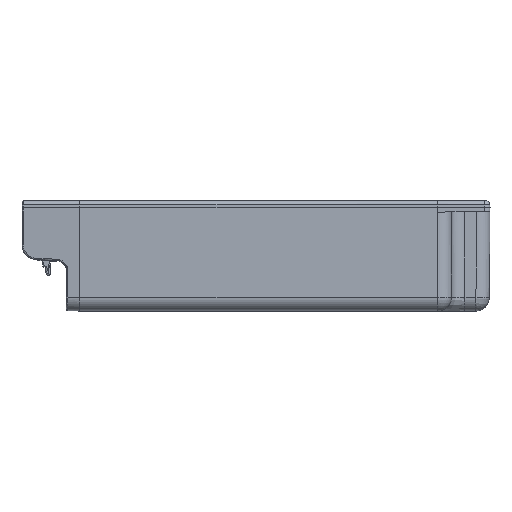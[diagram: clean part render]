
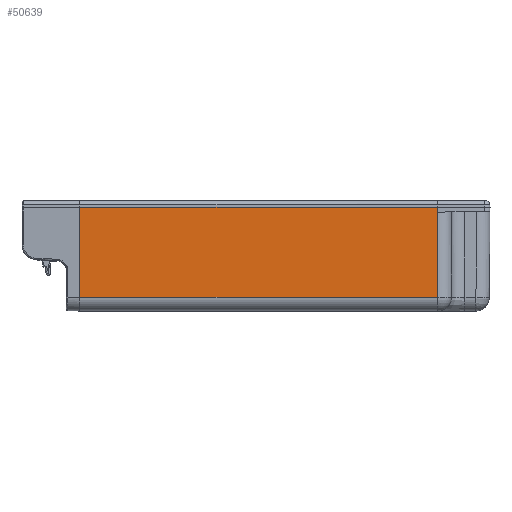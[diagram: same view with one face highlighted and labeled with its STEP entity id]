
A CAD part, front view. The second image highlights one B-rep face of the part: STEP entity #50639.
In plain terms, the highlighted planar face has unit normal (0, -1, -0.009).
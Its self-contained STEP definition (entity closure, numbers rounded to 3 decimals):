
#12512=DIRECTION('',(0.,0.009,-1.));
#12513=VECTOR('',#12512,32.811);
#12514=CARTESIAN_POINT('',(10.032,-21.698,
18.462));
#12515=LINE('',#12514,#12513);
#16193=DIRECTION('',(-1.,0.,0.));
#16194=VECTOR('',#16193,129.852);
#16195=CARTESIAN_POINT('',(139.884,-21.412,
-14.348));
#16196=LINE('',#16195,#16194);
#16197=DIRECTION('',(1.,0.,0.));
#16198=VECTOR('',#16197,129.852);
#16199=CARTESIAN_POINT('',(10.032,-21.698,
18.462));
#16200=LINE('',#16199,#16198);
#16201=DIRECTION('',(0.,0.009,-1.));
#16202=VECTOR('',#16201,32.712);
#16203=CARTESIAN_POINT('',(139.885,-21.698,
18.461));
#16204=LINE('',#16203,#16202);
#16205=CARTESIAN_POINT('',(139.883,-21.413,
-14.249));
#16206=CARTESIAN_POINT('',(139.883,-21.413,
-14.26));
#16207=CARTESIAN_POINT('',(139.884,-21.413,
-14.282));
#16208=CARTESIAN_POINT('',(139.884,-21.412,
-14.315));
#16209=CARTESIAN_POINT('',(139.884,-21.412,
-14.337));
#16210=CARTESIAN_POINT('',(139.884,-21.412,
-14.348));
#16644=CARTESIAN_POINT('',(139.884,-21.412,
-14.348));
#23569=VERTEX_POINT('',#16644);
#23575=VERTEX_POINT('',#16205);
#23975=CARTESIAN_POINT('',(139.885,-21.698,
18.461));
#23976=VERTEX_POINT('',#23975);
#23979=CARTESIAN_POINT('',(10.032,-21.412,
-14.348));
#23980=VERTEX_POINT('',#23979);
#23981=CARTESIAN_POINT('',(10.032,-21.698,
18.462));
#23982=VERTEX_POINT('',#23981);
#50624=CARTESIAN_POINT('',(10.032,-21.698,
18.462));
#50625=DIRECTION('',(0.,-1.,-0.009));
#50626=DIRECTION('',(0.,0.009,-1.));
#50627=AXIS2_PLACEMENT_3D('',#50624,#50625,#50626);
#50628=PLANE('',#50627);
#50629=ORIENTED_EDGE('',*,*,#50617,.T.);
#50630=ORIENTED_EDGE('',*,*,#46025,.F.);
#50632=ORIENTED_EDGE('',*,*,#50631,.T.);
#50634=ORIENTED_EDGE('',*,*,#50633,.T.);
#50636=ORIENTED_EDGE('',*,*,#50635,.T.);
#50637=EDGE_LOOP('',(#50629,#50630,#50632,#50634,#50636));
#50638=FACE_OUTER_BOUND('',#50637,.F.);
#50639=ADVANCED_FACE('',(#50638),#50628,.T.);
#16211=B_SPLINE_CURVE_WITH_KNOTS('',3,(#16205,#16206,#16207,#16208,#16209,
#16210),.UNSPECIFIED.,.F.,.F.,(4,1,1,4),(0.,0.333,
0.667,1.),.UNSPECIFIED.);
#46025=EDGE_CURVE('',#23982,#23980,#12515,.T.);
#50617=EDGE_CURVE('',#23569,#23980,#16196,.T.);
#50631=EDGE_CURVE('',#23982,#23976,#16200,.T.);
#50633=EDGE_CURVE('',#23976,#23575,#16204,.T.);
#50635=EDGE_CURVE('',#23575,#23569,#16211,.T.);
